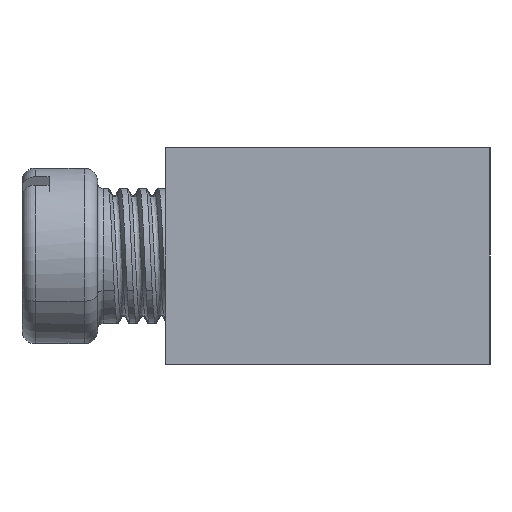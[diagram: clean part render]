
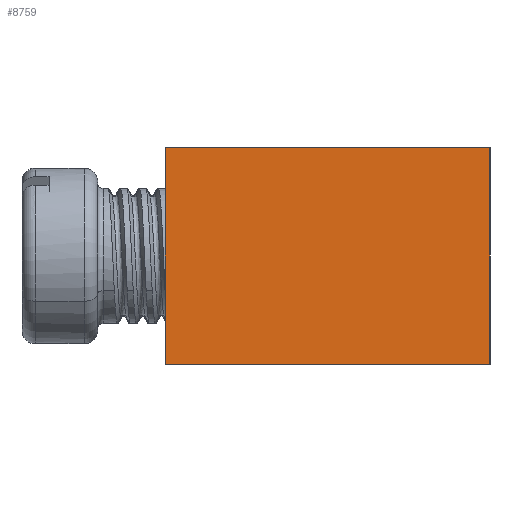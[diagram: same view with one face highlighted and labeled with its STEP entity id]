
A CAD part, left-side view. The second image highlights one B-rep face of the part: STEP entity #8759.
In plain terms, the highlighted planar face has unit normal (-1, 0, 0).
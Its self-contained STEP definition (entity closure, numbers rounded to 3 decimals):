
#28 = EDGE_CURVE ( 'NONE', #3560, #627, #4912, .T. ) ;
#81 = CARTESIAN_POINT ( 'NONE',  ( 0., 12., -8. ) ) ;
#124 = DIRECTION ( 'NONE',  ( 0., 0., 1. ) ) ;
#627 = VERTEX_POINT ( 'NONE', #6488 ) ;
#1520 = CARTESIAN_POINT ( 'NONE',  ( 0., 0., 0. ) ) ;
#1814 = LINE ( 'NONE', #6489, #5428 ) ;
#1857 = LINE ( 'NONE', #5300, #8863 ) ;
#2110 = VECTOR ( 'NONE', #5132, 1000. ) ;
#2265 = EDGE_CURVE ( 'NONE', #627, #3441, #1814, .T. ) ;
#2884 = DIRECTION ( 'NONE',  ( 0., 0., 1. ) ) ;
#2984 = VECTOR ( 'NONE', #5930, 1000. ) ;
#3001 = PLANE ( 'NONE',  #3258 ) ;
#3067 = ORIENTED_EDGE ( 'NONE', *, *, #28, .T. ) ;
#3258 = AXIS2_PLACEMENT_3D ( 'NONE', #8055, #4448, #124 ) ;
#3441 = VERTEX_POINT ( 'NONE', #1520 ) ;
#3560 = VERTEX_POINT ( 'NONE', #8240 ) ;
#3690 = CARTESIAN_POINT ( 'NONE',  ( 0., 12., 0. ) ) ;
#4266 = LINE ( 'NONE', #81, #2110 ) ;
#4448 = DIRECTION ( 'NONE',  ( -1., 0., 0. ) ) ;
#4535 = ORIENTED_EDGE ( 'NONE', *, *, #8139, .F. ) ;
#4550 = EDGE_LOOP ( 'NONE', ( #7588, #4535, #3067, #7698 ) ) ;
#4912 = LINE ( 'NONE', #5410, #2984 ) ;
#4937 = EDGE_CURVE ( 'NONE', #8757, #3441, #1857, .T. ) ;
#5132 = DIRECTION ( 'NONE',  ( 0., 0., 1. ) ) ;
#5300 = CARTESIAN_POINT ( 'NONE',  ( 0., 0., 0. ) ) ;
#5410 = CARTESIAN_POINT ( 'NONE',  ( 0., 0., -8. ) ) ;
#5428 = VECTOR ( 'NONE', #2884, 1000. ) ;
#5930 = DIRECTION ( 'NONE',  ( 0., -1., 0. ) ) ;
#6488 = CARTESIAN_POINT ( 'NONE',  ( 0., 0., -8. ) ) ;
#6489 = CARTESIAN_POINT ( 'NONE',  ( 0., 0., -8. ) ) ;
#6757 = DIRECTION ( 'NONE',  ( 0., -1., 0. ) ) ;
#7588 = ORIENTED_EDGE ( 'NONE', *, *, #4937, .F. ) ;
#7698 = ORIENTED_EDGE ( 'NONE', *, *, #2265, .T. ) ;
#8055 = CARTESIAN_POINT ( 'NONE',  ( 0., 0., -8. ) ) ;
#8139 = EDGE_CURVE ( 'NONE', #3560, #8757, #4266, .T. ) ;
#8208 = FACE_OUTER_BOUND ( 'NONE', #4550, .T. ) ;
#8240 = CARTESIAN_POINT ( 'NONE',  ( 0., 12., -8. ) ) ;
#8757 = VERTEX_POINT ( 'NONE', #3690 ) ;
#8759 = ADVANCED_FACE ( 'NONE', ( #8208 ), #3001, .T. ) ;
#8863 = VECTOR ( 'NONE', #6757, 1000. ) ;
